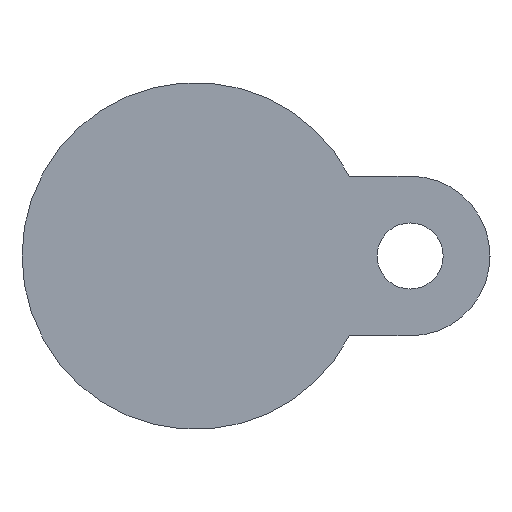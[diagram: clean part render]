
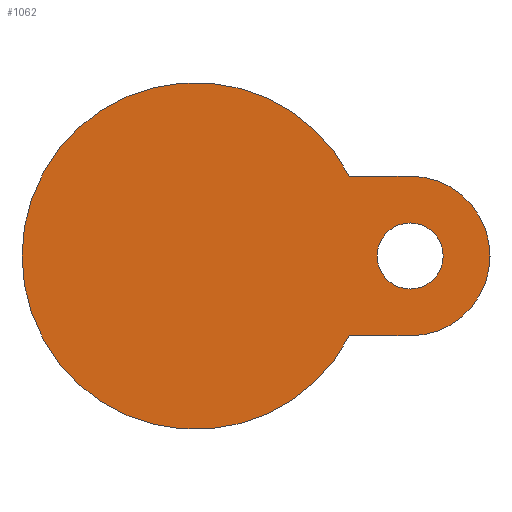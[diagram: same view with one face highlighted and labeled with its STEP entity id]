
A CAD part, front view. The second image highlights one B-rep face of the part: STEP entity #1062.
In plain terms, the highlighted planar face has unit normal (0, -1, 0).
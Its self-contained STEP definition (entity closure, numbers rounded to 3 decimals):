
#31 = EDGE_LOOP ( 'NONE', ( #2303, #2636, #4454, #4286, #202, #309 ) ) ;
#202 = ORIENTED_EDGE ( 'NONE', *, *, #2972, .T. ) ;
#309 = ORIENTED_EDGE ( 'NONE', *, *, #4469, .F. ) ;
#367 = CARTESIAN_POINT ( 'NONE',  ( 39., -15., 14.5 ) ) ;
#369 = VERTEX_POINT ( 'NONE', #367 ) ;
#379 = CARTESIAN_POINT ( 'NONE',  ( 45., -15., 0. ) ) ;
#513 = CIRCLE ( 'NONE', #5464, 6. ) ;
#538 = CARTESIAN_POINT ( 'NONE',  ( 27.964, -15., -14.5 ) ) ;
#592 = VERTEX_POINT ( 'NONE', #4038 ) ;
#663 = AXIS2_PLACEMENT_3D ( 'NONE', #2174, #1343, #3861 ) ;
#671 = DIRECTION ( 'NONE',  ( 0., 1., 0. ) ) ;
#676 = VERTEX_POINT ( 'NONE', #4826 ) ;
#692 = DIRECTION ( 'NONE',  ( 0., -1., 0. ) ) ;
#715 = VERTEX_POINT ( 'NONE', #1044 ) ;
#969 = CIRCLE ( 'NONE', #4675, 14.5 ) ;
#1044 = CARTESIAN_POINT ( 'NONE',  ( 27.964, -15., 14.5 ) ) ;
#1062 = ADVANCED_FACE ( 'NONE', ( #1834, #4844 ), #4400, .T. ) ;
#1087 = CARTESIAN_POINT ( 'NONE',  ( 0., -15., 0. ) ) ;
#1116 = DIRECTION ( 'NONE',  ( 0., -1., 0. ) ) ;
#1343 = DIRECTION ( 'NONE',  ( 0., -1., 0. ) ) ;
#1447 = CARTESIAN_POINT ( 'NONE',  ( 16.055, -15., 14.5 ) ) ;
#1528 = CARTESIAN_POINT ( 'NONE',  ( 0., -15., 0. ) ) ;
#1650 = VERTEX_POINT ( 'NONE', #3330 ) ;
#1779 = ORIENTED_EDGE ( 'NONE', *, *, #5072, .F. ) ;
#1794 = EDGE_CURVE ( 'NONE', #2394, #676, #2157, .T. ) ;
#1834 = FACE_OUTER_BOUND ( 'NONE', #31, .T. ) ;
#1843 = AXIS2_PLACEMENT_3D ( 'NONE', #3833, #5101, #3553 ) ;
#1965 = EDGE_CURVE ( 'NONE', #3821, #369, #3305, .T. ) ;
#2157 = CIRCLE ( 'NONE', #2600, 31.5 ) ;
#2174 = CARTESIAN_POINT ( 'NONE',  ( 39., -15., 0. ) ) ;
#2302 = VERTEX_POINT ( 'NONE', #379 ) ;
#2303 = ORIENTED_EDGE ( 'NONE', *, *, #1794, .F. ) ;
#2376 = CARTESIAN_POINT ( 'NONE',  ( 39., -15., 0. ) ) ;
#2394 = VERTEX_POINT ( 'NONE', #538 ) ;
#2406 = DIRECTION ( 'NONE',  ( 1., 0., 0. ) ) ;
#2483 = CARTESIAN_POINT ( 'NONE',  ( 53.5, -15., 0. ) ) ;
#2600 = AXIS2_PLACEMENT_3D ( 'NONE', #1087, #671, #4176 ) ;
#2636 = ORIENTED_EDGE ( 'NONE', *, *, #4127, .T. ) ;
#2800 = ORIENTED_EDGE ( 'NONE', *, *, #5089, .F. ) ;
#2900 = AXIS2_PLACEMENT_3D ( 'NONE', #3621, #3116, #3232 ) ;
#2953 = AXIS2_PLACEMENT_3D ( 'NONE', #1528, #5295, #3514 ) ;
#2972 = EDGE_CURVE ( 'NONE', #369, #715, #3099, .T. ) ;
#3099 = LINE ( 'NONE', #1447, #4311 ) ;
#3116 = DIRECTION ( 'NONE',  ( 0., -1., 0. ) ) ;
#3232 = DIRECTION ( 'NONE',  ( 1., 0., 0. ) ) ;
#3291 = EDGE_LOOP ( 'NONE', ( #2800, #1779 ) ) ;
#3305 = CIRCLE ( 'NONE', #663, 14.5 ) ;
#3321 = LINE ( 'NONE', #3714, #4060 ) ;
#3330 = CARTESIAN_POINT ( 'NONE',  ( 33., -15., 0. ) ) ;
#3514 = DIRECTION ( 'NONE',  ( 1., 0., 0. ) ) ;
#3553 = DIRECTION ( 'NONE',  ( -1., 0., 0. ) ) ;
#3621 = CARTESIAN_POINT ( 'NONE',  ( 39., -15., 0. ) ) ;
#3714 = CARTESIAN_POINT ( 'NONE',  ( 39., -15., -14.5 ) ) ;
#3821 = VERTEX_POINT ( 'NONE', #2483 ) ;
#3833 = CARTESIAN_POINT ( 'NONE',  ( 0., -15., 0. ) ) ;
#3861 = DIRECTION ( 'NONE',  ( 1., 0., 0. ) ) ;
#3994 = EDGE_CURVE ( 'NONE', #592, #3821, #969, .T. ) ;
#4014 = CARTESIAN_POINT ( 'NONE',  ( 39., -15., 0. ) ) ;
#4038 = CARTESIAN_POINT ( 'NONE',  ( 39., -15., -14.5 ) ) ;
#4043 = DIRECTION ( 'NONE',  ( 1., 0., 0. ) ) ;
#4060 = VECTOR ( 'NONE', #5405, 1000. ) ;
#4127 = EDGE_CURVE ( 'NONE', #2394, #592, #3321, .T. ) ;
#4176 = DIRECTION ( 'NONE',  ( -1., 0., 0. ) ) ;
#4286 = ORIENTED_EDGE ( 'NONE', *, *, #1965, .T. ) ;
#4311 = VECTOR ( 'NONE', #4819, 1000. ) ;
#4400 = PLANE ( 'NONE',  #2953 ) ;
#4454 = ORIENTED_EDGE ( 'NONE', *, *, #3994, .T. ) ;
#4469 = EDGE_CURVE ( 'NONE', #676, #715, #5383, .T. ) ;
#4675 = AXIS2_PLACEMENT_3D ( 'NONE', #4014, #1116, #4043 ) ;
#4819 = DIRECTION ( 'NONE',  ( -1., 0., 0. ) ) ;
#4826 = CARTESIAN_POINT ( 'NONE',  ( -31.5, -15., 0. ) ) ;
#4844 = FACE_BOUND ( 'NONE', #3291, .T. ) ;
#5072 = EDGE_CURVE ( 'NONE', #1650, #2302, #5296, .T. ) ;
#5089 = EDGE_CURVE ( 'NONE', #2302, #1650, #513, .T. ) ;
#5101 = DIRECTION ( 'NONE',  ( 0., 1., 0. ) ) ;
#5295 = DIRECTION ( 'NONE',  ( 0., -1., 0. ) ) ;
#5296 = CIRCLE ( 'NONE', #2900, 6. ) ;
#5383 = CIRCLE ( 'NONE', #1843, 31.5 ) ;
#5405 = DIRECTION ( 'NONE',  ( 1., 0., 0. ) ) ;
#5464 = AXIS2_PLACEMENT_3D ( 'NONE', #2376, #692, #2406 ) ;
